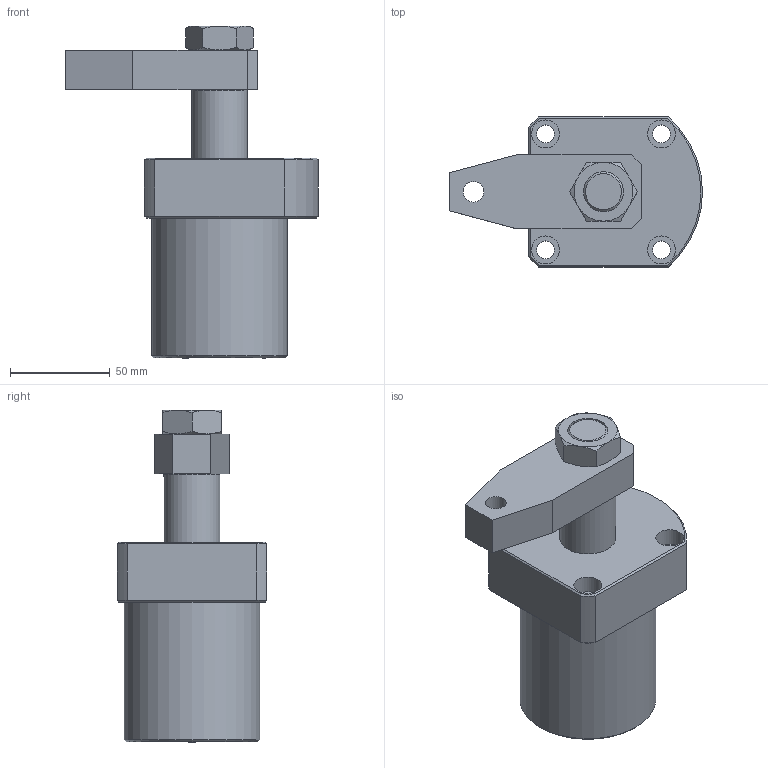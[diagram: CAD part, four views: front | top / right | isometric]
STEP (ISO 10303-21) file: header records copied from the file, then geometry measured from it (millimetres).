
FILE_DESCRIPTION(/* description */ ('Unknown'),/* implementation_level */ '2;1');
FILE_NAME(/* name */ 'HSC-FAM50S-A',/* time_stamp */ '2019-05-20T16:11:48+08:00',/* author */ ('Unknown'),/* organization */ ('Unknown'),/* preprocessor_version */ 'ST-DEVELOPER v16.7',/* originating_system */ 'DEX',/* authorisation */ $);
FILE_SCHEMA (('AUTOMOTIVE_DESIGN {1 0 10303 214 3 1 1}'));
Length unit declared in the file: millimetre
Products named in the file (4): HSC-FAM50S-A; HSC-FAM50S-CYLINDER; HSC-5002-S-AXLE CENTRE; HSC-50S-A
Assembly tree (3 placements, depth 2):
  HSC-FAM50S-A
    HSC-FAM50S-CYLINDER
    HSC-5002-S-AXLE CENTRE
    HSC-50S-A
Bounding box: 126.5 x 75 x 166 mm (x, y, z)
Volume: 458625.3 mm3; surface area: 81131.3 mm2
Topology: 3 solids, 3 shells, 104 faces, 216 edges, 136 vertices
Faces by surface type: plane 47, cone 28, cylinder 26, torus 3
Full cylindrical faces by diameter (mm): 3 x2, 4.1 x2, 9 x4, 10.3 x1, 12 x2, 14 x4, 20 x2, 21 x1, 28 x2, 50 x2, 68 x1
Entity records: 2953 total; most frequent: CARTESIAN_POINT 514, DIRECTION 432, ORIENTED_EDGE 336, AXIS2_PLACEMENT_3D 192, FACE_BOUND 172, EDGE_LOOP 170, EDGE_CURVE 168, VERTEX_POINT 126
